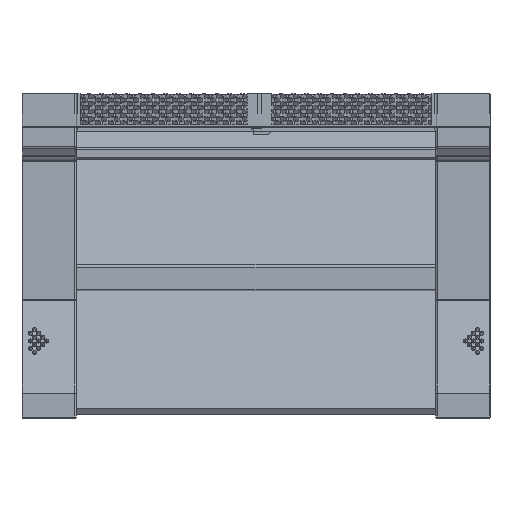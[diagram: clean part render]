
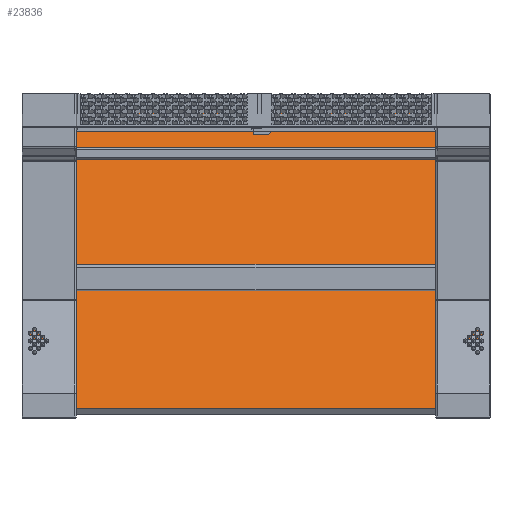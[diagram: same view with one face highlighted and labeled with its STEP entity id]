
A CAD part, top view. The second image highlights one B-rep face of the part: STEP entity #23836.
In plain terms, the highlighted planar face has unit normal (0, 0.291, 0.957) as drawn and (0, 0, 1) by its records, which use the part's own axes.
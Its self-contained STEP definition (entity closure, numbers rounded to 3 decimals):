
#23709=DIRECTION('',(0.,-1.,0.));
#23710=VECTOR('',#23709,228.);
#23711=CARTESIAN_POINT('',(-161.5,228.,14.));
#23712=LINE('',#23711,#23710);
#23716=DIRECTION('',(-1.,0.,0.));
#23717=VECTOR('',#23716,323.);
#23718=CARTESIAN_POINT('',(161.5,228.,14.));
#23719=LINE('',#23718,#23717);
#23723=DIRECTION('',(0.,1.,0.));
#23724=VECTOR('',#23723,228.);
#23725=CARTESIAN_POINT('',(161.5,0.,14.));
#23726=LINE('',#23725,#23724);
#23730=DIRECTION('',(1.,0.,0.));
#23731=VECTOR('',#23730,323.);
#23732=CARTESIAN_POINT('',(-161.5,0.,14.));
#23733=LINE('',#23732,#23731);
#23745=CARTESIAN_POINT('',(-161.5,228.,14.));
#23746=CARTESIAN_POINT('',(-161.5,0.,14.));
#23747=VERTEX_POINT('',#23745);
#23748=VERTEX_POINT('',#23746);
#23749=CARTESIAN_POINT('',(161.5,0.,14.));
#23750=VERTEX_POINT('',#23749);
#23751=CARTESIAN_POINT('',(161.5,228.,14.));
#23752=VERTEX_POINT('',#23751);
#23825=CARTESIAN_POINT('',(0.,0.,14.));
#23826=DIRECTION('',(0.,0.,1.));
#23827=DIRECTION('',(1.,0.,0.));
#23828=AXIS2_PLACEMENT_3D('',#23825,#23826,#23827);
#23829=PLANE('',#23828);
#23830=ORIENTED_EDGE('',*,*,#23777,.F.);
#23831=ORIENTED_EDGE('',*,*,#23792,.F.);
#23832=ORIENTED_EDGE('',*,*,#23806,.F.);
#23833=ORIENTED_EDGE('',*,*,#23819,.F.);
#23834=EDGE_LOOP('',(#23830,#23831,#23832,#23833));
#23835=FACE_OUTER_BOUND('',#23834,.F.);
#23777=EDGE_CURVE('',#23747,#23748,#23712,.T.);
#23792=EDGE_CURVE('',#23752,#23747,#23719,.T.);
#23806=EDGE_CURVE('',#23750,#23752,#23726,.T.);
#23819=EDGE_CURVE('',#23748,#23750,#23733,.T.);
#23836=ADVANCED_FACE('',(#23835),#23829,.T.);
